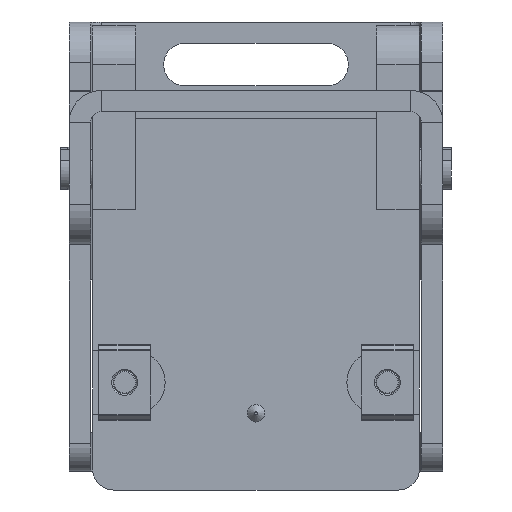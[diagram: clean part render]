
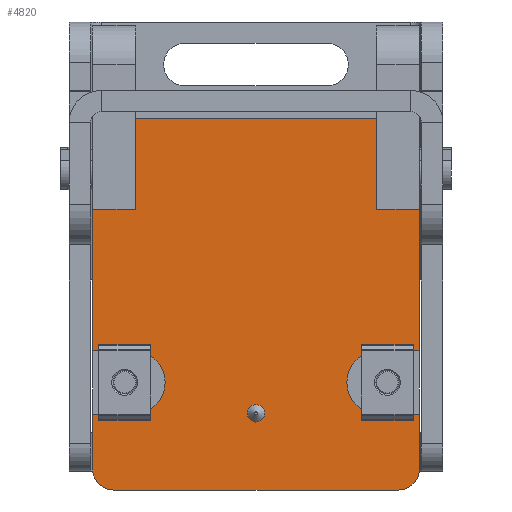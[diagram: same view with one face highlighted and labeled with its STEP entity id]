
A CAD part, left-side view. The second image highlights one B-rep face of the part: STEP entity #4820.
In plain terms, the highlighted planar face has unit normal (-1, 0, 0).
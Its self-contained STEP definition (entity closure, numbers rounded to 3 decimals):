
#114=FACE_BOUND('',#630,.T.);
#175=PLANE('',#5222);
#355=FACE_OUTER_BOUND('',#629,.T.);
#629=EDGE_LOOP('',(#3585,#3586,#3587,#3588,#3589,#3590,#3591,#3592,#3593,
#3594,#3595,#3596,#3597,#3598,#3599,#3600,#3601,#3602));
#630=EDGE_LOOP('',(#3603,#3604));
#920=CIRCLE('',#5210,1.23);
#921=CIRCLE('',#5211,1.23);
#922=CIRCLE('',#5214,3.);
#928=CIRCLE('',#5223,3.);
#929=CIRCLE('',#5224,4.5);
#930=CIRCLE('',#5225,4.5);
#1116=LINE('',#7111,#1592);
#1120=LINE('',#7119,#1596);
#1216=LINE('',#8097,#1692);
#1220=LINE('',#8104,#1696);
#1225=LINE('',#8121,#1701);
#1226=LINE('',#8124,#1702);
#1227=LINE('',#8127,#1703);
#1228=LINE('',#8129,#1704);
#1229=LINE('',#8131,#1705);
#1230=LINE('',#8133,#1706);
#1231=LINE('',#8135,#1707);
#1232=LINE('',#8136,#1708);
#1233=LINE('',#8138,#1709);
#1234=LINE('',#8141,#1710);
#1592=VECTOR('',#5646,10.);
#1596=VECTOR('',#5650,10.);
#1692=VECTOR('',#5926,10.);
#1696=VECTOR('',#5930,10.);
#1701=VECTOR('',#5943,10.);
#1702=VECTOR('',#5946,10.);
#1703=VECTOR('',#5949,10.);
#1704=VECTOR('',#5950,10.);
#1705=VECTOR('',#5951,10.);
#1706=VECTOR('',#5952,10.);
#1707=VECTOR('',#5953,10.);
#1708=VECTOR('',#5954,10.);
#1709=VECTOR('',#5955,10.);
#1710=VECTOR('',#5958,10.);
#2074=VERTEX_POINT('',#7109);
#2075=VERTEX_POINT('',#7110);
#2078=VERTEX_POINT('',#7116);
#2079=VERTEX_POINT('',#7118);
#2165=VERTEX_POINT('',#8063);
#2166=VERTEX_POINT('',#8064);
#2168=VERTEX_POINT('',#8071);
#2169=VERTEX_POINT('',#8073);
#2170=VERTEX_POINT('',#8077);
#2179=VERTEX_POINT('',#8096);
#2182=VERTEX_POINT('',#8102);
#2190=VERTEX_POINT('',#8120);
#2191=VERTEX_POINT('',#8123);
#2192=VERTEX_POINT('',#8125);
#2193=VERTEX_POINT('',#8128);
#2194=VERTEX_POINT('',#8130);
#2195=VERTEX_POINT('',#8132);
#2196=VERTEX_POINT('',#8134);
#2197=VERTEX_POINT('',#8137);
#2198=VERTEX_POINT('',#8139);
#2551=EDGE_CURVE('',#2074,#2075,#1116,.T.);
#2555=EDGE_CURVE('',#2078,#2079,#1120,.T.);
#2692=EDGE_CURVE('',#2165,#2166,#920,.T.);
#2693=EDGE_CURVE('',#2166,#2165,#921,.T.);
#2697=EDGE_CURVE('',#2168,#2169,#922,.T.);
#2709=EDGE_CURVE('',#2169,#2179,#1216,.T.);
#2713=EDGE_CURVE('',#2182,#2170,#1220,.T.);
#2721=EDGE_CURVE('',#2190,#2168,#1225,.T.);
#2722=EDGE_CURVE('',#2079,#2190,#928,.T.);
#2723=EDGE_CURVE('',#2078,#2191,#1226,.T.);
#2724=EDGE_CURVE('',#2192,#2191,#929,.T.);
#2725=EDGE_CURVE('',#2192,#2075,#1227,.T.);
#2726=EDGE_CURVE('',#2193,#2074,#1228,.T.);
#2727=EDGE_CURVE('',#2194,#2193,#1229,.T.);
#2728=EDGE_CURVE('',#2194,#2195,#1230,.T.);
#2729=EDGE_CURVE('',#2196,#2195,#1231,.T.);
#2730=EDGE_CURVE('',#2170,#2196,#1232,.T.);
#2731=EDGE_CURVE('',#2182,#2197,#1233,.T.);
#2732=EDGE_CURVE('',#2198,#2197,#930,.T.);
#2733=EDGE_CURVE('',#2198,#2179,#1234,.T.);
#3585=ORIENTED_EDGE('',*,*,#2697,.F.);
#3586=ORIENTED_EDGE('',*,*,#2721,.F.);
#3587=ORIENTED_EDGE('',*,*,#2722,.F.);
#3588=ORIENTED_EDGE('',*,*,#2555,.F.);
#3589=ORIENTED_EDGE('',*,*,#2723,.T.);
#3590=ORIENTED_EDGE('',*,*,#2724,.F.);
#3591=ORIENTED_EDGE('',*,*,#2725,.T.);
#3592=ORIENTED_EDGE('',*,*,#2551,.F.);
#3593=ORIENTED_EDGE('',*,*,#2726,.F.);
#3594=ORIENTED_EDGE('',*,*,#2727,.F.);
#3595=ORIENTED_EDGE('',*,*,#2728,.T.);
#3596=ORIENTED_EDGE('',*,*,#2729,.F.);
#3597=ORIENTED_EDGE('',*,*,#2730,.F.);
#3598=ORIENTED_EDGE('',*,*,#2713,.F.);
#3599=ORIENTED_EDGE('',*,*,#2731,.T.);
#3600=ORIENTED_EDGE('',*,*,#2732,.F.);
#3601=ORIENTED_EDGE('',*,*,#2733,.T.);
#3602=ORIENTED_EDGE('',*,*,#2709,.F.);
#3603=ORIENTED_EDGE('',*,*,#2692,.T.);
#3604=ORIENTED_EDGE('',*,*,#2693,.T.);
#4820=ADVANCED_FACE('',(#355,#114),#175,.T.);
#5210=AXIS2_PLACEMENT_3D('',#8065,#5898,#5899);
#5211=AXIS2_PLACEMENT_3D('',#8066,#5900,#5901);
#5214=AXIS2_PLACEMENT_3D('',#8074,#5908,#5909);
#5222=AXIS2_PLACEMENT_3D('',#8119,#5941,#5942);
#5223=AXIS2_PLACEMENT_3D('',#8122,#5944,#5945);
#5224=AXIS2_PLACEMENT_3D('',#8126,#5947,#5948);
#5225=AXIS2_PLACEMENT_3D('',#8140,#5956,#5957);
#5646=DIRECTION('',(0.,-1.,0.));
#5650=DIRECTION('',(0.,-1.,0.));
#5898=DIRECTION('center_axis',(1.,0.,0.));
#5899=DIRECTION('ref_axis',(0.,1.,0.));
#5900=DIRECTION('center_axis',(1.,0.,0.));
#5901=DIRECTION('ref_axis',(0.,1.,0.));
#5908=DIRECTION('center_axis',(1.,0.,0.));
#5909=DIRECTION('ref_axis',(0.,-0.707,-0.707));
#5926=DIRECTION('',(0.,1.,0.));
#5930=DIRECTION('',(0.,1.,0.));
#5941=DIRECTION('center_axis',(-1.,0.,0.));
#5942=DIRECTION('ref_axis',(0.,-1.,0.));
#5943=DIRECTION('',(0.,0.,-1.));
#5944=DIRECTION('center_axis',(1.,0.,0.));
#5945=DIRECTION('ref_axis',(0.,-0.707,0.707));
#5946=DIRECTION('',(0.,0.,-1.));
#5947=DIRECTION('center_axis',(-1.,0.,0.));
#5948=DIRECTION('ref_axis',(0.,0.707,-0.707));
#5949=DIRECTION('',(0.,0.,1.));
#5950=DIRECTION('',(0.,0.,1.));
#5951=DIRECTION('',(0.,-1.,0.));
#5952=DIRECTION('',(0.,0.,-1.));
#5953=DIRECTION('',(0.,1.,0.));
#5954=DIRECTION('',(0.,0.,1.));
#5955=DIRECTION('',(0.,0.,1.));
#5956=DIRECTION('center_axis',(-1.,0.,0.));
#5957=DIRECTION('ref_axis',(0.,-0.707,0.707));
#5958=DIRECTION('',(0.,0.,-1.));
#7109=CARTESIAN_POINT('',(0.,0.,23.));
#7110=CARTESIAN_POINT('',(0.,-19.9,23.));
#7111=CARTESIAN_POINT('',(0.,-37.,23.));
#7116=CARTESIAN_POINT('',(0.,-28.9,23.));
#7118=CARTESIAN_POINT('',(0.,-36.55,23.));
#7119=CARTESIAN_POINT('',(0.,-37.,23.));
#8063=CARTESIAN_POINT('',(0.,-27.521,0.));
#8064=CARTESIAN_POINT('',(0.,-29.98,0.));
#8065=CARTESIAN_POINT('Origin',(0.,-28.75,0.));
#8066=CARTESIAN_POINT('Origin',(0.,-28.75,0.));
#8071=CARTESIAN_POINT('',(0.,-39.55,-20.));
#8073=CARTESIAN_POINT('',(0.,-36.55,-23.));
#8074=CARTESIAN_POINT('Origin',(0.,-36.55,-20.));
#8077=CARTESIAN_POINT('',(0.,0.,-23.));
#8096=CARTESIAN_POINT('',(0.,-28.9,-23.));
#8097=CARTESIAN_POINT('',(0.,-37.,-23.));
#8102=CARTESIAN_POINT('',(0.,-19.9,-23.));
#8104=CARTESIAN_POINT('',(0.,-37.,-23.));
#8119=CARTESIAN_POINT('Origin',(0.,0.,
-23.));
#8120=CARTESIAN_POINT('',(0.,-39.55,20.));
#8121=CARTESIAN_POINT('',(0.,-39.55,23.));
#8122=CARTESIAN_POINT('Origin',(0.,-36.55,20.));
#8123=CARTESIAN_POINT('',(0.,-28.9,17.3));
#8124=CARTESIAN_POINT('',(0.,-28.9,0.));
#8125=CARTESIAN_POINT('',(0.,-19.9,17.3));
#8126=CARTESIAN_POINT('Origin',(0.,-24.4,17.3));
#8127=CARTESIAN_POINT('',(0.,-19.9,-5.1));
#8128=CARTESIAN_POINT('',(0.,0.,17.));
#8129=CARTESIAN_POINT('',(0.,0.,-23.));
#8130=CARTESIAN_POINT('',(0.,12.7,17.));
#8131=CARTESIAN_POINT('',(0.,11.413,17.));
#8132=CARTESIAN_POINT('',(0.,12.7,-17.));
#8133=CARTESIAN_POINT('',(0.,12.7,17.));
#8134=CARTESIAN_POINT('',(0.,0.,-17.));
#8135=CARTESIAN_POINT('',(0.,-3.,-17.));
#8136=CARTESIAN_POINT('',(0.,0.,-23.));
#8137=CARTESIAN_POINT('',(0.,-19.9,-17.3));
#8138=CARTESIAN_POINT('',(0.,-19.9,-23.));
#8139=CARTESIAN_POINT('',(0.,-28.9,-17.3));
#8140=CARTESIAN_POINT('Origin',(0.,-24.4,-17.3));
#8141=CARTESIAN_POINT('',(0.,-28.9,-17.9));
